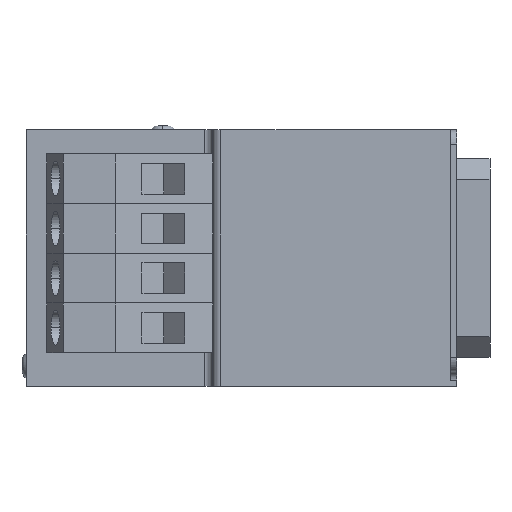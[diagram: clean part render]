
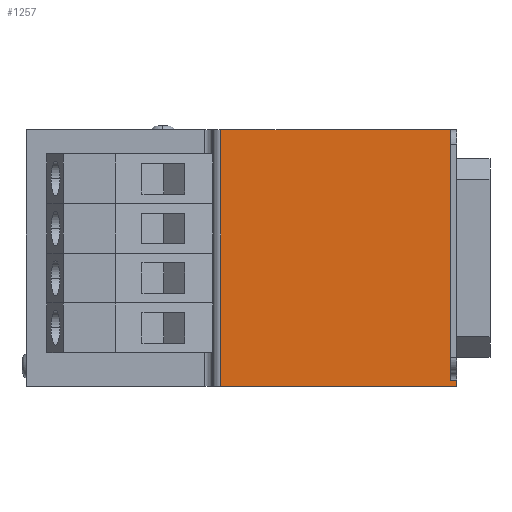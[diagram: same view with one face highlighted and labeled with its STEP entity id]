
A CAD part, left-side view. The second image highlights one B-rep face of the part: STEP entity #1257.
In plain terms, the highlighted planar face has unit normal (-1, 0, 0).
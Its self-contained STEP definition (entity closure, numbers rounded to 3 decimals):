
#118 = CARTESIAN_POINT ( 'NONE',  ( -75.5, 0., -31. ) ) ;
#353 = LINE ( 'NONE', #4964, #3534 ) ;
#365 = LINE ( 'NONE', #4972, #8716 ) ;
#480 = EDGE_LOOP ( 'NONE', ( #4490, #2975, #3585, #8533, #6353, #3933 ) ) ;
#578 = VERTEX_POINT ( 'NONE', #118 ) ;
#925 = DIRECTION ( 'NONE',  ( 0., 0., 1. ) ) ;
#938 = DIRECTION ( 'NONE',  ( 0., 1., 0. ) ) ;
#944 = CARTESIAN_POINT ( 'NONE',  ( -75.5, 1.5, 31. ) ) ;
#1215 = CARTESIAN_POINT ( 'NONE',  ( -75.5, 57., -31. ) ) ;
#1257 = ADVANCED_FACE ( 'NONE', ( #1504 ), #5271, .F. ) ;
#1347 = DIRECTION ( 'NONE',  ( 0., 1., 0. ) ) ;
#1504 = FACE_OUTER_BOUND ( 'NONE', #480, .T. ) ;
#1724 = VERTEX_POINT ( 'NONE', #6301 ) ;
#1725 = DIRECTION ( 'NONE',  ( 0., 0., -1. ) ) ;
#2312 = LINE ( 'NONE', #9129, #5570 ) ;
#2410 = VECTOR ( 'NONE', #1347, 1000. ) ;
#2975 = ORIENTED_EDGE ( 'NONE', *, *, #6847, .T. ) ;
#2987 = AXIS2_PLACEMENT_3D ( 'NONE', #4501, #5567, #9215 ) ;
#3116 = CARTESIAN_POINT ( 'NONE',  ( -75.5, 0., -29.5 ) ) ;
#3191 = LINE ( 'NONE', #8434, #3346 ) ;
#3346 = VECTOR ( 'NONE', #1725, 1000. ) ;
#3534 = VECTOR ( 'NONE', #5605, 1000. ) ;
#3585 = ORIENTED_EDGE ( 'NONE', *, *, #4182, .F. ) ;
#3933 = ORIENTED_EDGE ( 'NONE', *, *, #4049, .T. ) ;
#4049 = EDGE_CURVE ( 'NONE', #1724, #9315, #2312, .T. ) ;
#4182 = EDGE_CURVE ( 'NONE', #578, #7700, #7553, .T. ) ;
#4253 = DIRECTION ( 'NONE',  ( 0., 0., -1. ) ) ;
#4490 = ORIENTED_EDGE ( 'NONE', *, *, #9086, .T. ) ;
#4501 = CARTESIAN_POINT ( 'NONE',  ( -75.5, 1.5, -31. ) ) ;
#4964 = CARTESIAN_POINT ( 'NONE',  ( -75.5, 1.5, -29.5 ) ) ;
#4972 = CARTESIAN_POINT ( 'NONE',  ( -75.5, 0., -31. ) ) ;
#5209 = CARTESIAN_POINT ( 'NONE',  ( -75.5, 1.5, 31. ) ) ;
#5262 = VECTOR ( 'NONE', #938, 1000. ) ;
#5271 = PLANE ( 'NONE',  #2987 ) ;
#5343 = CARTESIAN_POINT ( 'NONE',  ( -75.5, 1.5, -31. ) ) ;
#5567 = DIRECTION ( 'NONE',  ( 1., 0., 0. ) ) ;
#5570 = VECTOR ( 'NONE', #925, 1000. ) ;
#5605 = DIRECTION ( 'NONE',  ( 0., 1., 0. ) ) ;
#6092 = VERTEX_POINT ( 'NONE', #3116 ) ;
#6301 = CARTESIAN_POINT ( 'NONE',  ( -75.5, 1.5, -29.5 ) ) ;
#6353 = ORIENTED_EDGE ( 'NONE', *, *, #9349, .T. ) ;
#6847 = EDGE_CURVE ( 'NONE', #8138, #7700, #3191, .T. ) ;
#7553 = LINE ( 'NONE', #5343, #5262 ) ;
#7700 = VERTEX_POINT ( 'NONE', #1215 ) ;
#8026 = EDGE_CURVE ( 'NONE', #6092, #578, #365, .T. ) ;
#8138 = VERTEX_POINT ( 'NONE', #8589 ) ;
#8434 = CARTESIAN_POINT ( 'NONE',  ( -75.5, 57., -31. ) ) ;
#8533 = ORIENTED_EDGE ( 'NONE', *, *, #8026, .F. ) ;
#8589 = CARTESIAN_POINT ( 'NONE',  ( -75.5, 57., 31. ) ) ;
#8716 = VECTOR ( 'NONE', #4253, 1000. ) ;
#9086 = EDGE_CURVE ( 'NONE', #9315, #8138, #9579, .T. ) ;
#9129 = CARTESIAN_POINT ( 'NONE',  ( -75.5, 1.5, -31. ) ) ;
#9215 = DIRECTION ( 'NONE',  ( 0., 0., -1. ) ) ;
#9315 = VERTEX_POINT ( 'NONE', #944 ) ;
#9349 = EDGE_CURVE ( 'NONE', #6092, #1724, #353, .T. ) ;
#9579 = LINE ( 'NONE', #5209, #2410 ) ;
